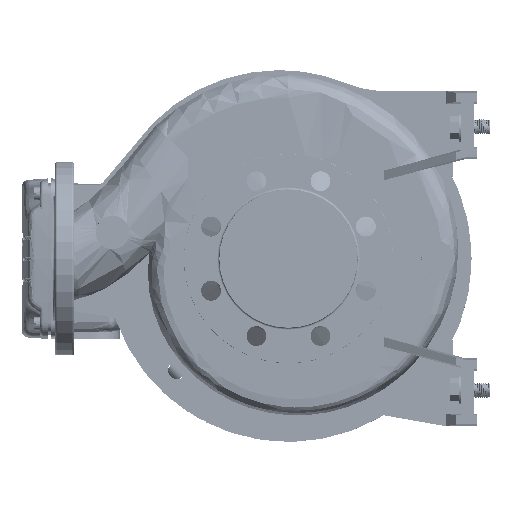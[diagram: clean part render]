
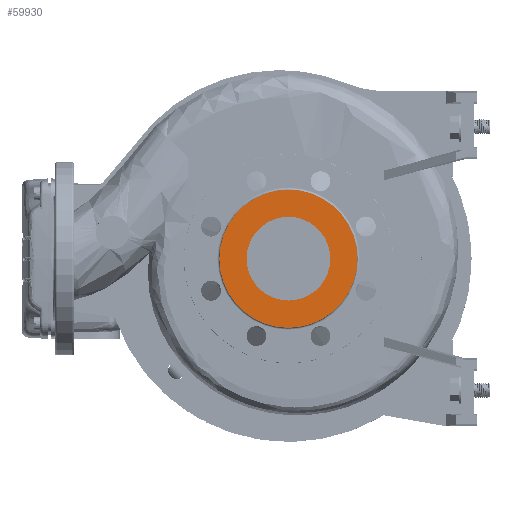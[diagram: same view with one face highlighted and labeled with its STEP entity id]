
A CAD part, left-side view. The second image highlights one B-rep face of the part: STEP entity #59930.
In plain terms, the highlighted planar face has unit normal (-1, 0, 0).
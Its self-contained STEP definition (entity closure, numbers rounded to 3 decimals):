
#1225 = VERTEX_POINT ( 'NONE', #129674 ) ;
#5500 = ORIENTED_EDGE ( 'NONE', *, *, #48380, .F. ) ;
#6731 = FACE_BOUND ( 'NONE', #152503, .T. ) ;
#13314 = AXIS2_PLACEMENT_3D ( 'NONE', #92920, #195674, #24373 ) ;
#21319 = DIRECTION ( 'NONE',  ( 0., -1., 0. ) ) ;
#21643 = EDGE_LOOP ( 'NONE', ( #51362, #5500 ) ) ;
#24373 = DIRECTION ( 'NONE',  ( 0., -1., 0. ) ) ;
#25322 = AXIS2_PLACEMENT_3D ( 'NONE', #51301, #170110, #167876 ) ;
#43098 = ORIENTED_EDGE ( 'NONE', *, *, #185333, .F. ) ;
#43626 = DIRECTION ( 'NONE',  ( 1., 0., 0. ) ) ;
#48380 = EDGE_CURVE ( 'NONE', #201145, #114643, #82804, .T. ) ;
#50939 = ORIENTED_EDGE ( 'NONE', *, *, #176808, .F. ) ;
#51301 = CARTESIAN_POINT ( 'NONE',  ( -100., 0., 0. ) ) ;
#51362 = ORIENTED_EDGE ( 'NONE', *, *, #147436, .F. ) ;
#51790 = CIRCLE ( 'NONE', #179499, 40. ) ;
#59608 = DIRECTION ( 'NONE',  ( 0., 1., 0. ) ) ;
#59930 = ADVANCED_FACE ( 'NONE', ( #6731, #126640 ), #214518, .T. ) ;
#61448 = DIRECTION ( 'NONE',  ( 0., -1., 0. ) ) ;
#82804 = CIRCLE ( 'NONE', #166625, 66. ) ;
#92920 = CARTESIAN_POINT ( 'NONE',  ( -100., 0., 0. ) ) ;
#93481 = AXIS2_PLACEMENT_3D ( 'NONE', #196268, #198524, #61448 ) ;
#109394 = CARTESIAN_POINT ( 'NONE',  ( -100., 66., 0. ) ) ;
#114643 = VERTEX_POINT ( 'NONE', #109394 ) ;
#126640 = FACE_OUTER_BOUND ( 'NONE', #21643, .T. ) ;
#127552 = CIRCLE ( 'NONE', #25322, 66. ) ;
#129674 = CARTESIAN_POINT ( 'NONE',  ( -100., 40., 0. ) ) ;
#140476 = VERTEX_POINT ( 'NONE', #169154 ) ;
#147436 = EDGE_CURVE ( 'NONE', #114643, #201145, #127552, .T. ) ;
#152503 = EDGE_LOOP ( 'NONE', ( #43098, #50939 ) ) ;
#162476 = CARTESIAN_POINT ( 'NONE',  ( -100., 0., 0. ) ) ;
#166625 = AXIS2_PLACEMENT_3D ( 'NONE', #162476, #43626, #59608 ) ;
#167876 = DIRECTION ( 'NONE',  ( 0., 1., 0. ) ) ;
#169154 = CARTESIAN_POINT ( 'NONE',  ( -100., -40., 0. ) ) ;
#170110 = DIRECTION ( 'NONE',  ( 1., 0., 0. ) ) ;
#176808 = EDGE_CURVE ( 'NONE', #1225, #140476, #51790, .T. ) ;
#179499 = AXIS2_PLACEMENT_3D ( 'NONE', #201334, #213103, #21319 ) ;
#185333 = EDGE_CURVE ( 'NONE', #140476, #1225, #199292, .T. ) ;
#195674 = DIRECTION ( 'NONE',  ( -1., 0., 0. ) ) ;
#196268 = CARTESIAN_POINT ( 'NONE',  ( -100., 0., 0. ) ) ;
#198524 = DIRECTION ( 'NONE',  ( -1., 0., 0. ) ) ;
#199292 = CIRCLE ( 'NONE', #13314, 40. ) ;
#201145 = VERTEX_POINT ( 'NONE', #211394 ) ;
#201334 = CARTESIAN_POINT ( 'NONE',  ( -100., 0., 0. ) ) ;
#211394 = CARTESIAN_POINT ( 'NONE',  ( -100., -66., 0. ) ) ;
#213103 = DIRECTION ( 'NONE',  ( -1., 0., 0. ) ) ;
#214518 = PLANE ( 'NONE',  #93481 ) ;
